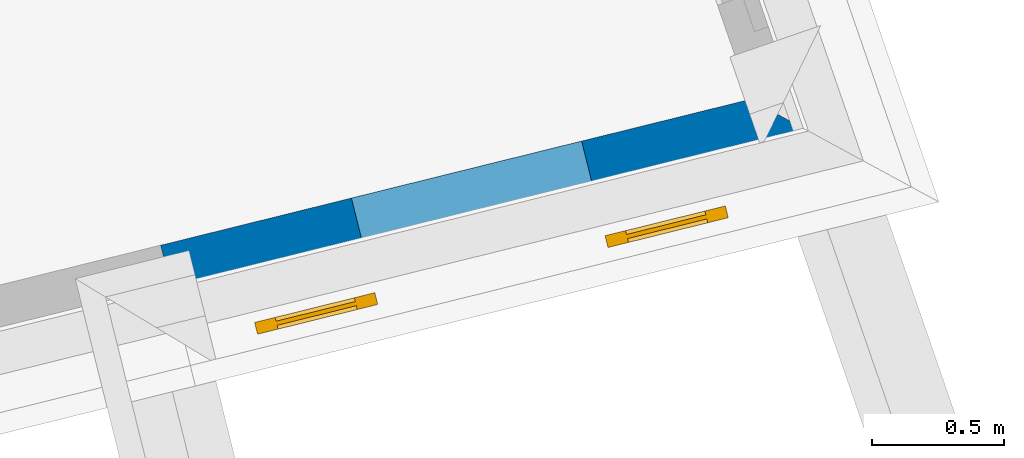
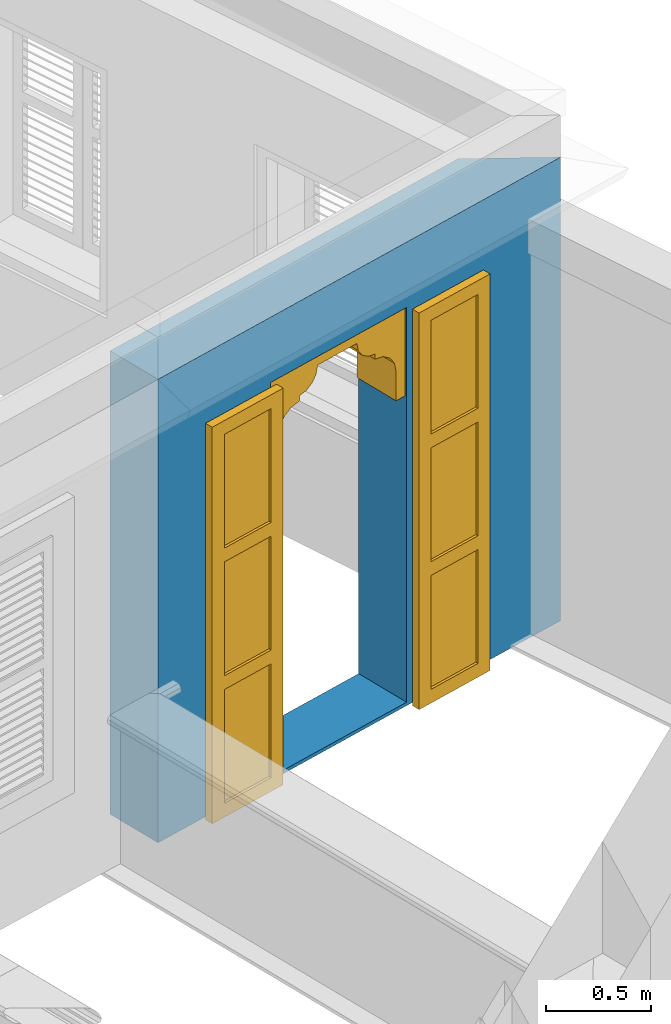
# One storey, part 11 of 15: 1 door, 1 wall, 1 opening.
"""IFC4 building model written with IfcOpenShell, lengths in metres."""

from ifc_helpers import new_model, si_unit, frame, origin, origin_with_axes, place, context, subcontext, project, spatial, polyline, outline, extrude, faceted_brep, source, transform, mapped, material, layer, layer_set, layer_usage, type_object, type_shapes, element, fill, save


model = new_model("IFC4")

# Units and contexts
model_context = context("Model", 3, world=origin_with_axes())
body_context = subcontext(model_context, "Body", "Model", "MODEL_VIEW")
ifc_project = project(units=[si_unit("PLANEANGLEUNIT", "RADIAN"), si_unit("MASSUNIT", "GRAM", prefix="KILO"), si_unit("FORCEUNIT", "NEWTON", prefix="KILO"), si_unit("LENGTHUNIT", "METRE"), si_unit("AREAUNIT", "SQUARE_METRE"), si_unit("VOLUMEUNIT", "CUBIC_METRE")], contexts=[model_context, model_context])

# Site, building, storey
site_placement = place(None, origin_with_axes())
site = spatial("IfcSite", under=ifc_project, at=site_placement, Name="Site plot-5", CompositionType="ELEMENT")
building_placement = place(None, origin_with_axes())
building = spatial("IfcBuilding", under=site, at=building_placement, Name="Building plot-5", CompositionType="ELEMENT")
storey_placement = place(None, frame((0.0, 0.0, 3.45), z_axis=(0.0, 0.0, 1.0), x_axis=(1.0, 0.0, 0.0)))
storey = spatial("IfcBuildingStorey", under=building, at=storey_placement, Name="plot-5 1", CompositionType="ELEMENT", Elevation=3.45)

# Wall, opening, door
ifc_material = material(Name="Masonry")
ifc_layer = layer(ifc_material, 0.33, ventilated=False)
ifc_layer_set = layer_set([ifc_layer], Name="exterior_0.08_0.25")
ifc_layer_usage = layer_usage(ifc_layer_set, "AXIS2", "POSITIVE", -0.25)
wall_type = type_object("IfcWallType", Name="exterior_0.08_0.25", PredefinedType="SOLIDWALL", material=ifc_layer_set)
wall_placement = place(storey_placement, frame((20.4610676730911, 28.0147411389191, 0.0), z_axis=(0.0, 0.0, 1.0), x_axis=(0.970711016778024, 0.240250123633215, 0.0)))
wall = element("IfcWall", 1, at=wall_placement, inside=storey, type_object=wall_type, material=ifc_layer_usage, Name="exterior", context=body_context, shape_type="SweptSolid", body=[
    extrude(outline(polyline([(-2.09120248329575e-15, 0.0800000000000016), (3.73455521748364e-15, -0.250000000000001), (2.66582204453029, -0.250000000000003), (2.3046296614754, 0.0799999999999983), (-2.09120248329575e-15, 0.0800000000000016)])), origin_with_axes(), (0.0, 0.0, 1.0), 2.7),
])
opening_placement = place(wall_placement, frame((0.746095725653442, 0.0, 0.02)))
opening = element("IfcOpeningElement", 2, at=opening_placement, cuts=wall, Name="My Opening", ObjectType="Opening", context=body_context, shape_type="SweptSolid", body=[
    extrude(outline(polyline([(0.0, -0.269999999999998), (0.900000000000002, -0.27), (0.899999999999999, 1.1), (-3.10862446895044e-15, 1.1), (0.0, -0.269999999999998)])), origin_with_axes(), (0.0, 0.0, 1.0), 2.3),
])
door_type = type_object("IfcDoorType", Name="arch-900x2300", OperationType="SINGLE_SWING_LEFT", PredefinedType="NOTDEFINED")
shared_shape = source(origin(), body_context, "Body", "Brep", [
    faceted_brep([(-0.08, -0.02, 0.08), (-0.08, -0.02, 0.0), (-0.39, -0.02, 0.0), (-0.39, -0.02, 0.08), (-0.47, -0.02, 0.0), (-0.47, -0.02, 0.08), (-0.39, -0.035, 0.08), (-0.08, -0.035, 0.08), (0.0, -0.02, 0.08), (0.0, -0.02, 0.0), (-0.08, -0.066, 0.0), (-0.39, -0.066, 0.0), (-0.47, -0.066, 0.0), (-0.47, -0.066, 0.08), (-0.39, -0.02, 0.743333), (-0.47, -0.02, 0.743333), (-0.39, -0.035, 0.743333), (-0.08, -0.035, 0.743333), (-0.08, -0.02, 0.743333), (0.0, -0.02, 0.743333), (0.0, -0.066, 0.08), (0.0, -0.066, 0.0), (-0.39, -0.066, 0.08), (-0.08, -0.066, 0.08), (-0.47, -0.066, 0.743333), (-0.39, -0.02, 0.823333), (-0.47, -0.02, 0.823333), (0.0, -0.066, 0.743333), (0.0, -0.02, 0.823333), (-0.08, -0.02, 0.823333), (-0.08, -0.051, 0.08), (-0.39, -0.051, 0.08), (-0.39, -0.066, 0.743333), (-0.47, -0.066, 0.823333), (-0.39, -0.02, 1.486667), (-0.47, -0.02, 1.486667), (0.0, -0.066, 0.823333), (-0.08, -0.066, 0.743333), (0.0, -0.02, 1.486667), (-0.08, -0.02, 1.486667), (-0.08, -0.051, 0.743333), (-0.39, -0.051, 0.743333), (-0.39, -0.066, 0.823333), (-0.47, -0.066, 1.486667), (-0.39, -0.035, 0.823333), (-0.08, -0.035, 0.823333), (-0.39, -0.035, 1.486667), (-0.39, -0.02, 1.566667), (-0.47, -0.02, 1.566667), (0.0, -0.066, 1.486667), (-0.08, -0.066, 0.823333), (-0.08, -0.035, 1.486667), (0.0, -0.02, 1.566667), (-0.08, -0.02, 1.566667), (-0.39, -0.066, 1.486667), (-0.47, -0.066, 1.566667), (-0.39, -0.02, 2.23), (-0.47, -0.02, 2.23), (0.0, -0.066, 1.566667), (-0.08, -0.066, 1.486667), (0.0, -0.02, 2.23), (-0.08, -0.02, 2.23), (-0.08, -0.051, 0.823333), (-0.39, -0.051, 0.823333), (-0.39, -0.051, 1.486667), (-0.39, -0.066, 1.566667), (-0.47, -0.066, 2.23), (-0.39, -0.035, 1.566667), (-0.08, -0.035, 1.566667), (-0.39, -0.035, 2.23), (-0.39, -0.02, 2.31), (-0.47, -0.02, 2.31), (0.0, -0.066, 2.23), (-0.08, -0.066, 1.566667), (-0.08, -0.051, 1.486667), (-0.08, -0.035, 2.23), (0.0, -0.02, 2.31), (-0.08, -0.02, 2.31), (-0.39, -0.066, 2.23), (-0.47, -0.066, 2.31), (-0.39, -0.066, 2.31), (0.0, -0.066, 2.31), (-0.08, -0.066, 2.23), (-0.08, -0.066, 2.31), (-0.08, -0.051, 1.566667), (-0.39, -0.051, 1.566667), (-0.39, -0.051, 2.23), (-0.08, -0.051, 2.23), (1.29, -0.02, 0.08), (1.29, -0.02, 0.0), (0.98, -0.02, 0.0), (0.98, -0.02, 0.08), (1.37, -0.02, 0.08), (1.37, -0.02, 0.0), (0.98, -0.035, 0.08), (1.29, -0.035, 0.08), (0.9, -0.02, 0.0), (0.9, -0.02, 0.08), (1.29, -0.066, 0.0), (0.98, -0.066, 0.0), (1.37, -0.066, 0.08), (1.37, -0.066, 0.0), (1.37, -0.02, 0.743333), (1.29, -0.02, 0.743333), (1.29, -0.035, 0.743333), (0.98, -0.035, 0.743333), (0.98, -0.02, 0.743333), (0.9, -0.02, 0.743333), (0.9, -0.066, 0.0), (0.9, -0.066, 0.08), (0.98, -0.066, 0.08), (1.29, -0.066, 0.08), (1.37, -0.066, 0.743333), (1.37, -0.02, 0.823333), (1.29, -0.02, 0.823333), (0.9, -0.066, 0.743333), (0.98, -0.02, 0.823333), (0.9, -0.02, 0.823333), (1.29, -0.051, 0.08), (0.98, -0.051, 0.08), (1.29, -0.066, 0.743333), (1.37, -0.066, 0.823333), (1.37, -0.02, 1.486667), (1.29, -0.02, 1.486667), (0.9, -0.066, 0.823333), (0.98, -0.066, 0.743333), (0.98, -0.02, 1.486667), (0.9, -0.02, 1.486667), (0.98, -0.051, 0.743333), (1.29, -0.051, 0.743333), (1.29, -0.066, 0.823333), (1.37, -0.066, 1.486667), (0.98, -0.035, 0.823333), (1.29, -0.035, 0.823333), (1.29, -0.035, 1.486667), (1.37, -0.02, 1.566667), (1.29, -0.02, 1.566667), (0.9, -0.066, 1.486667), (0.98, -0.066, 0.823333), (0.98, -0.035, 1.486667), (0.98, -0.02, 1.566667), (0.9, -0.02, 1.566667), (1.29, -0.066, 1.486667), (1.37, -0.066, 1.566667), (1.37, -0.02, 2.23), (1.29, -0.02, 2.23), (0.9, -0.066, 1.566667), (0.98, -0.066, 1.486667), (0.98, -0.02, 2.23), (0.9, -0.02, 2.23), (1.29, -0.051, 0.823333), (0.98, -0.051, 0.823333), (1.29, -0.051, 1.486667), (1.29, -0.066, 1.566667), (1.37, -0.066, 2.23), (0.98, -0.035, 1.566667), (1.29, -0.035, 1.566667), (1.29, -0.035, 2.23), (1.37, -0.02, 2.31), (1.29, -0.02, 2.31), (0.9, -0.066, 2.23), (0.98, -0.066, 1.566667), (0.98, -0.051, 1.486667), (0.98, -0.035, 2.23), (0.98, -0.02, 2.31), (0.9, -0.02, 2.31), (1.29, -0.066, 2.23), (1.37, -0.066, 2.31), (1.29, -0.066, 2.31), (0.9, -0.066, 2.31), (0.98, -0.066, 2.23), (0.98, -0.066, 2.31), (1.29, -0.051, 1.566667), (0.98, -0.051, 1.566667), (1.29, -0.051, 2.23), (0.98, -0.051, 2.23), (0.9, 0.03, 1.78), (0.9, 0.03, 1.95), (0.84, 0.03, 1.95), (0.84, 0.03, 1.78), (0.84, 0.3, 1.95), (0.84, 0.3, 1.78), (0.9, 0.03, 2.12), (0.829, 0.03, 2.004), (0.9, 0.3, 1.78), (0.9, 0.3, 1.95), (0.829, 0.3, 2.004), (0.799, 0.03, 2.049), (0.9, 0.3, 2.12), (0.799, 0.3, 2.049), (0.754, 0.03, 2.079), (0.9, 0.3, 2.29), (0.9, 0.03, 2.29), (0.754, 0.3, 2.079), (0.7, 0.03, 2.09), (0.7, 0.03, 2.12), (0.654, 0.03, 2.129), (0.58, 0.3, 2.29), (0.58, 0.03, 2.29), (0.7, 0.3, 2.12), (0.654, 0.3, 2.129), (0.7, 0.3, 2.09), (0.615, 0.03, 2.155), (0.589, 0.3, 2.194), (0.58, 0.3, 2.24), (0.58, 0.03, 2.24), (0.589, 0.03, 2.194), (0.615, 0.3, 2.155), (0.06, 0.03, 1.78), (0.06, 0.03, 1.95), (0.0, 0.03, 1.95), (0.0, 0.03, 1.78), (0.06, 0.3, 1.78), (0.06, 0.3, 1.95), (0.071, 0.03, 2.004), (0.0, 0.03, 2.12), (0.0, 0.3, 1.95), (0.0, 0.3, 1.78), (0.071, 0.3, 2.004), (0.101, 0.03, 2.049), (0.0, 0.3, 2.12), (0.101, 0.3, 2.049), (0.146, 0.03, 2.079), (0.0, 0.03, 2.29), (0.0, 0.3, 2.29), (0.146, 0.3, 2.079), (0.2, 0.03, 2.12), (0.2, 0.03, 2.09), (0.246, 0.03, 2.129), (0.32, 0.03, 2.29), (0.32, 0.3, 2.29), (0.246, 0.3, 2.129), (0.2, 0.3, 2.12), (0.2, 0.3, 2.09), (0.285, 0.03, 2.155), (0.32, 0.3, 2.24), (0.311, 0.3, 2.194), (0.311, 0.03, 2.194), (0.32, 0.03, 2.24), (0.285, 0.3, 2.155)], [[[0, 1, 2, 3]], [[4, 5, 3, 2]], [[0, 3, 6, 7]], [[1, 0, 8, 9]], [[2, 1, 10, 11]], [[5, 4, 12, 13]], [[14, 3, 5, 15]], [[4, 2, 11, 12]], [[3, 14, 16, 6]], [[6, 16, 17, 7]], [[18, 0, 7, 17]], [[0, 18, 19, 8]], [[9, 8, 20, 21]], [[1, 9, 21, 10]], [[22, 11, 10, 23]], [[13, 12, 11, 22]], [[15, 5, 13, 24]], [[25, 14, 15, 26]], [[14, 18, 17, 16]], [[8, 19, 27, 20]], [[28, 19, 18, 29]], [[23, 10, 21, 20]], [[22, 23, 30, 31]], [[22, 32, 24, 13]], [[26, 15, 24, 33]], [[29, 18, 14, 25]], [[34, 25, 26, 35]], [[19, 28, 36, 27]], [[20, 27, 37, 23]], [[38, 28, 29, 39]], [[23, 37, 40, 30]], [[41, 31, 30, 40]], [[32, 22, 31, 41]], [[32, 42, 33, 24]], [[35, 26, 33, 43]], [[29, 25, 44, 45]], [[25, 34, 46, 44]], [[47, 34, 35, 48]], [[28, 38, 49, 36]], [[27, 36, 50, 37]], [[39, 29, 45, 51]], [[52, 38, 39, 53]], [[37, 32, 41, 40]], [[37, 50, 42, 32]], [[42, 54, 43, 33]], [[48, 35, 43, 55]], [[44, 46, 51, 45]], [[34, 39, 51, 46]], [[34, 47, 53, 39]], [[56, 47, 48, 57]], [[38, 52, 58, 49]], [[36, 49, 59, 50]], [[60, 52, 53, 61]], [[42, 50, 62, 63]], [[54, 42, 63, 64]], [[54, 65, 55, 43]], [[57, 48, 55, 66]], [[53, 47, 67, 68]], [[47, 56, 69, 67]], [[70, 56, 57, 71]], [[52, 60, 72, 58]], [[49, 58, 73, 59]], [[50, 59, 74, 62]], [[61, 53, 68, 75]], [[76, 60, 61, 77]], [[64, 63, 62, 74]], [[59, 54, 64, 74]], [[65, 54, 59, 73]], [[65, 78, 66, 55]], [[71, 57, 66, 79]], [[67, 69, 75, 68]], [[56, 61, 75, 69]], [[77, 61, 56, 70]], [[70, 71, 79, 80]], [[60, 76, 81, 72]], [[58, 72, 82, 73]], [[76, 77, 83, 81]], [[65, 73, 84, 85]], [[78, 65, 85, 86]], [[78, 80, 79, 66]], [[77, 70, 80, 83]], [[72, 81, 83, 82]], [[73, 82, 87, 84]], [[86, 85, 84, 87]], [[82, 78, 86, 87]], [[82, 83, 80, 78]], [[88, 89, 90, 91]], [[89, 88, 92, 93]], [[94, 95, 88, 91]], [[96, 97, 91, 90]], [[98, 99, 90, 89]], [[100, 101, 93, 92]], [[102, 92, 88, 103]], [[101, 98, 89, 93]], [[95, 104, 103, 88]], [[94, 105, 104, 95]], [[105, 94, 91, 106]], [[97, 107, 106, 91]], [[108, 109, 97, 96]], [[99, 108, 96, 90]], [[110, 99, 98, 111]], [[111, 98, 101, 100]], [[112, 100, 92, 102]], [[113, 102, 103, 114]], [[104, 105, 106, 103]], [[109, 115, 107, 97]], [[116, 106, 107, 117]], [[109, 108, 99, 110]], [[118, 119, 110, 111]], [[100, 112, 120, 111]], [[121, 112, 102, 113]], [[114, 103, 106, 116]], [[122, 113, 114, 123]], [[115, 124, 117, 107]], [[110, 125, 115, 109]], [[126, 116, 117, 127]], [[119, 128, 125, 110]], [[128, 119, 118, 129]], [[129, 118, 111, 120]], [[112, 121, 130, 120]], [[131, 121, 113, 122]], [[132, 133, 114, 116]], [[133, 134, 123, 114]], [[135, 122, 123, 136]], [[124, 137, 127, 117]], [[125, 138, 124, 115]], [[139, 132, 116, 126]], [[140, 126, 127, 141]], [[128, 129, 120, 125]], [[120, 130, 138, 125]], [[121, 131, 142, 130]], [[143, 131, 122, 135]], [[132, 139, 134, 133]], [[134, 139, 126, 123]], [[126, 140, 136, 123]], [[144, 135, 136, 145]], [[137, 146, 141, 127]], [[138, 147, 137, 124]], [[148, 140, 141, 149]], [[150, 151, 138, 130]], [[152, 150, 130, 142]], [[131, 143, 153, 142]], [[154, 143, 135, 144]], [[155, 156, 136, 140]], [[156, 157, 145, 136]], [[158, 144, 145, 159]], [[146, 160, 149, 141]], [[147, 161, 146, 137]], [[151, 162, 147, 138]], [[163, 155, 140, 148]], [[164, 148, 149, 165]], [[162, 151, 150, 152]], [[162, 152, 142, 147]], [[161, 147, 142, 153]], [[143, 154, 166, 153]], [[167, 154, 144, 158]], [[155, 163, 157, 156]], [[157, 163, 148, 145]], [[159, 145, 148, 164]], [[168, 167, 158, 159]], [[160, 169, 165, 149]], [[161, 170, 160, 146]], [[169, 171, 164, 165]], [[172, 173, 161, 153]], [[174, 172, 153, 166]], [[154, 167, 168, 166]], [[171, 168, 159, 164]], [[170, 171, 169, 160]], [[173, 175, 170, 161]], [[175, 173, 172, 174]], [[175, 174, 166, 170]], [[166, 168, 171, 170]], [[176, 177, 178, 179]], [[180, 181, 179, 178]], [[177, 182, 183, 178]], [[177, 176, 184, 185]], [[181, 184, 176, 179]], [[181, 180, 185, 184]], [[186, 180, 178, 183]], [[182, 187, 183]], [[182, 177, 185, 188]], [[180, 186, 188, 185]], [[189, 186, 183, 187]], [[182, 190, 187]], [[188, 191, 192, 182]], [[188, 186, 189]], [[193, 189, 187, 190]], [[194, 190, 182, 195]], [[182, 192, 196, 195]], [[192, 191, 197, 198]], [[199, 200, 191, 188]], [[188, 189, 193]], [[201, 193, 190, 194]], [[199, 201, 194, 195]], [[200, 199, 195, 196]], [[192, 202, 196]], [[191, 203, 204, 197]], [[192, 198, 205, 206]], [[207, 191, 200]], [[199, 188, 193, 201]], [[207, 200, 196, 202]], [[192, 206, 202]], [[204, 203, 206, 205]], [[203, 191, 207]], [[203, 207, 202, 206]], [[208, 209, 210, 211]], [[209, 208, 212, 213]], [[209, 214, 215, 210]], [[211, 210, 216, 217]], [[208, 211, 217, 212]], [[217, 216, 213, 212]], [[214, 209, 213, 218]], [[214, 219, 215]], [[220, 216, 210, 215]], [[216, 220, 218, 213]], [[219, 214, 218, 221]], [[219, 222, 215]], [[215, 223, 224, 220]], [[221, 218, 220]], [[222, 219, 221, 225]], [[226, 215, 222, 227]], [[226, 228, 223, 215]], [[229, 230, 224, 223]], [[220, 224, 231, 232]], [[225, 221, 220]], [[227, 222, 225, 233]], [[226, 227, 233, 232]], [[228, 226, 232, 231]], [[228, 234, 223]], [[230, 235, 236, 224]], [[237, 238, 229, 223]], [[231, 224, 239]], [[233, 225, 220, 232]], [[234, 228, 231, 239]], [[234, 237, 223]], [[238, 237, 236, 235]], [[239, 224, 236]], [[237, 234, 239, 236]], [[238, 235, 204, 205]], [[235, 230, 197, 204]], [[229, 238, 205, 198]], [[230, 229, 198, 197]]]),
])
type_shapes(door_type, [shared_shape])
door_placement = place(storey_placement, frame((21.2501785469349, 27.9318987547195, 0.02), z_axis=(0.0, 0.0, 1.0), x_axis=(0.873639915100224, 0.216225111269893, 0.0)))
door = element("IfcDoor", 3, at=door_placement, inside=storey, type_object=door_type, Name="circulation sahn door", OverallHeight=2.3, OverallWidth=0.9, context=body_context, shape_type="MappedRepresentation", body=[
    mapped(shared_shape, transform((0.0, 0.0, 0.0), scale=1.0)),
])
fill(opening, door)

save(model, "model.ifc")
